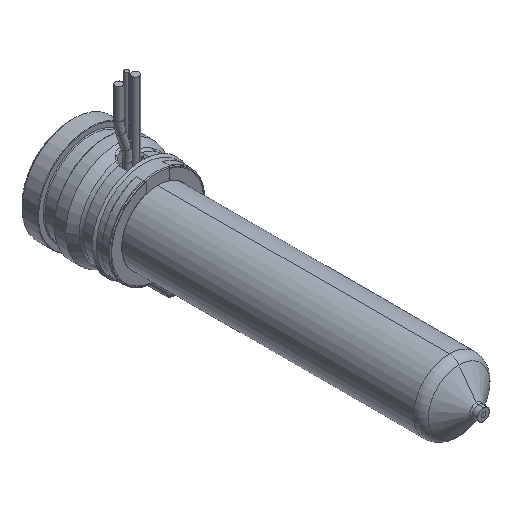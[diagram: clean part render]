
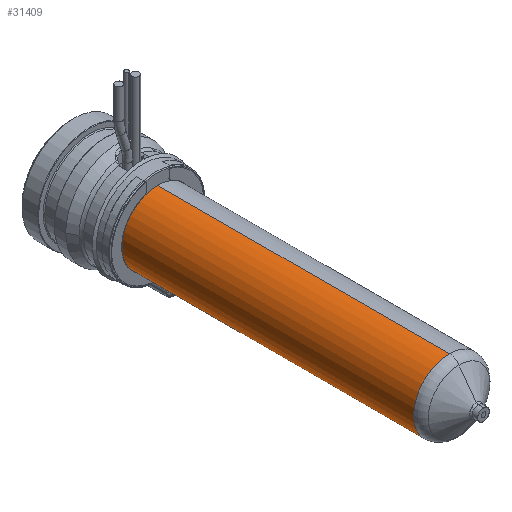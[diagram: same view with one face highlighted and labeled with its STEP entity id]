
A CAD part, isometric view. The second image highlights one B-rep face of the part: STEP entity #31409.
In plain terms, the highlighted cylindrical face has radius 9 mm (diameter 18 mm), a partial arc.
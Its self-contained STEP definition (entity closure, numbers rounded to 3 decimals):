
#30969=CARTESIAN_POINT('',(0.,-95.471,0.));
#30970=DIRECTION('',(0.,-1.,0.));
#30971=DIRECTION('',(0.,0.,1.));
#30972=AXIS2_PLACEMENT_3D('',#30969,#30970,#30971);
#31001=DIRECTION('',(0.,-1.,0.));
#31002=VECTOR('',#31001,73.471);
#31003=CARTESIAN_POINT('',(0.,-22.,9.));
#31004=LINE('',#31003,#31002);
#31016=DIRECTION('',(0.,-1.,0.));
#31017=VECTOR('',#31016,73.471);
#31018=CARTESIAN_POINT('',(0.,-22.,-9.));
#31019=LINE('',#31018,#31017);
#31023=CARTESIAN_POINT('',(0.,-22.,0.));
#31024=DIRECTION('',(0.,-1.,0.));
#31025=DIRECTION('',(0.,0.,1.));
#31026=AXIS2_PLACEMENT_3D('',#31023,#31024,#31025);
#31225=CARTESIAN_POINT('',(0.,-22.,9.));
#31226=CARTESIAN_POINT('',(0.,-95.471,9.));
#31227=VERTEX_POINT('',#31225);
#31228=VERTEX_POINT('',#31226);
#31237=CARTESIAN_POINT('',(0.,-22.,-9.));
#31238=CARTESIAN_POINT('',(0.,-95.471,-9.));
#31239=VERTEX_POINT('',#31237);
#31240=VERTEX_POINT('',#31238);
#31397=CARTESIAN_POINT('',(0.,-13.7,0.));
#31398=DIRECTION('',(0.,-1.,0.));
#31399=DIRECTION('',(0.,0.,1.));
#31400=AXIS2_PLACEMENT_3D('',#31397,#31398,#31399);
#31401=CYLINDRICAL_SURFACE('',#31400,9.);
#31402=ORIENTED_EDGE('',*,*,#31387,.T.);
#31403=ORIENTED_EDGE('',*,*,#31364,.T.);
#31404=ORIENTED_EDGE('',*,*,#31391,.F.);
#31406=ORIENTED_EDGE('',*,*,#31405,.F.);
#31407=EDGE_LOOP('',(#31402,#31403,#31404,#31406));
#31408=FACE_OUTER_BOUND('',#31407,.F.);
#31409=ADVANCED_FACE('',(#31408),#31401,.T.);
#30973=CIRCLE('',#30972,9.);
#31027=CIRCLE('',#31026,9.);
#31364=EDGE_CURVE('',#31228,#31240,#30973,.T.);
#31387=EDGE_CURVE('',#31227,#31228,#31004,.T.);
#31391=EDGE_CURVE('',#31239,#31240,#31019,.T.);
#31405=EDGE_CURVE('',#31227,#31239,#31027,.T.);
